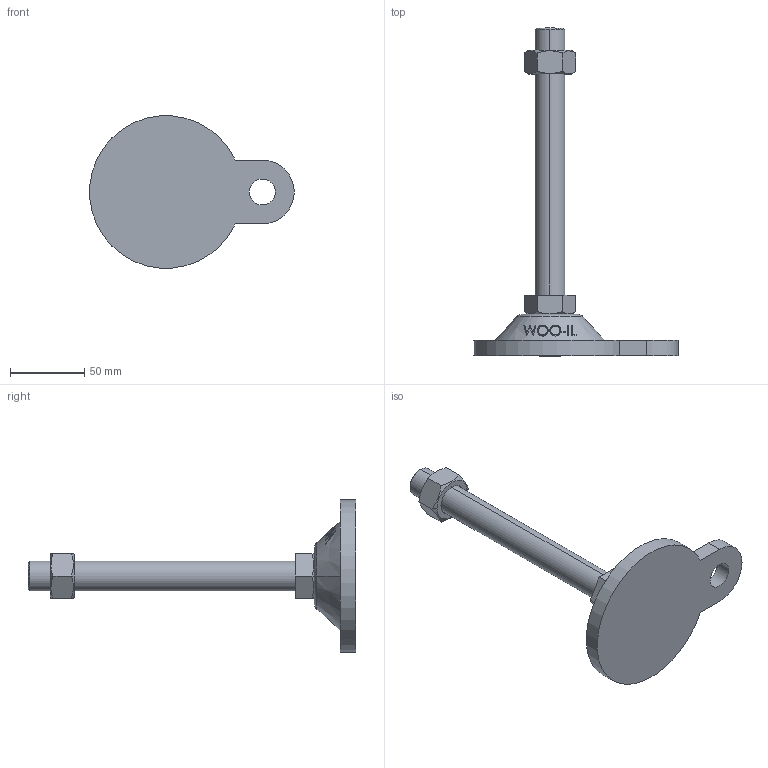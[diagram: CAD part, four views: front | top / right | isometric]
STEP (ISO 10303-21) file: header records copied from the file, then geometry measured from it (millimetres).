
FILE_DESCRIPTION (( 'STEP AP214' ), '1' );
FILE_NAME ('ARB103-M20-180.step', '2021-03-25T00:41:28', ( '' ), ( '' ), 'SwSTEP 2.0', 'SolidWorks 2019', '' );
FILE_SCHEMA (( 'AUTOMOTIVE_DESIGN' ));
Length unit declared in the file: millimetre
Products named in the file (2): ARB103-M20-180
Bounding box: 137.8 x 221 x 102.64 mm (x, y, z)
Volume: 220273.7 mm3; surface area: 42460.4 mm2
Topology: 3 solids, 3 shells, 97 faces, 229 edges, 148 vertices
Faces by surface type: plane 49, cone 22, bspline 16, cylinder 8, torus 2
Entity records: 4424 total; most frequent: CARTESIAN_POINT 2262, ORIENTED_EDGE 458, DIRECTION 375, EDGE_CURVE 229, VERTEX_POINT 148, AXIS2_PLACEMENT_3D 143, EDGE_LOOP 111, FACE_OUTER_BOUND 97
